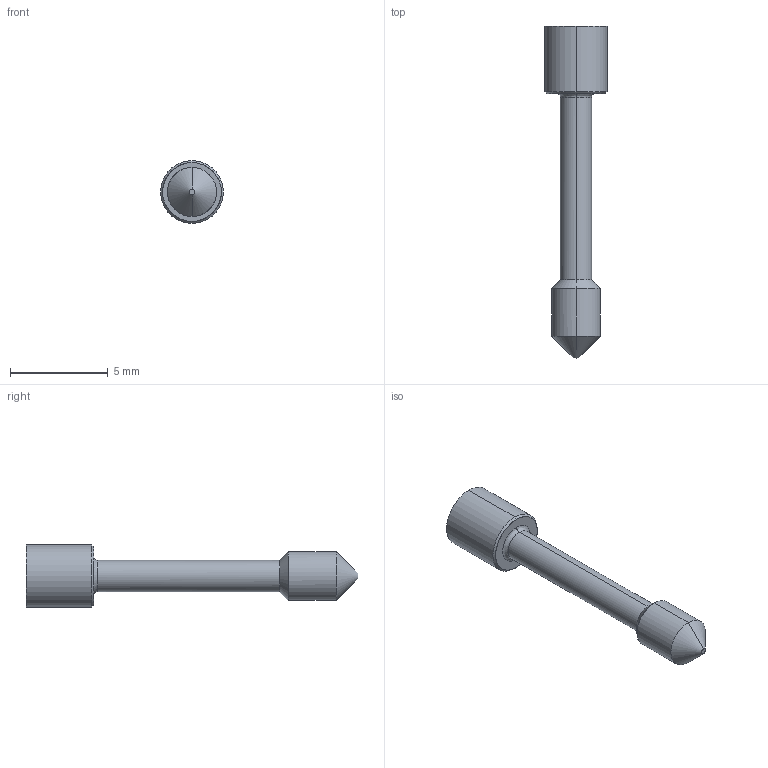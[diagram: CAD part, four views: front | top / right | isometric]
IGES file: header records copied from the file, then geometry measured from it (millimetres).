
Start section: START RECORD GO HERE.
Global section: file name: ia3217sf.igs; native system: DASSAULT SYSTEMES CATIA V5 R20 - www.3ds.com; preprocessor: CATIA Version 5 Release 20 ; author: Utente; organization: NB04-ASUS; date: 20201108.074514; units: millimetre
Bounding box: 3.2 x 16.95 x 3.2 mm (x, y, z)
Surface area: 129.3 mm2 (no closed solid volume)
Topology: 0 solids, 0 shells, 26 faces, 112 edges, 112 vertices
Faces by surface type: revolution 16, plane 10
